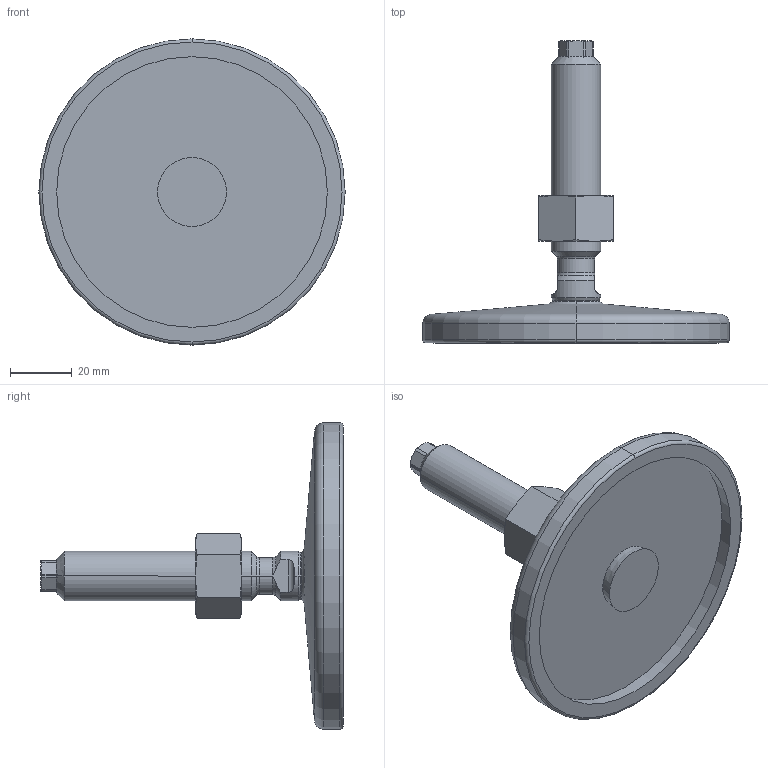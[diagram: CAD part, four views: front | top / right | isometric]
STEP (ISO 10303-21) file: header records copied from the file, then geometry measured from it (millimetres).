
FILE_DESCRIPTION (( 'STEP AP214' ), '1' );
FILE_NAME ('21-100-M16-75-D0-VK.step', '2020-10-02T17:36:52', ( '' ), ( '' ), 'SwSTEP 2.0', 'SolidWorks 2019', '' );
FILE_SCHEMA (( 'AUTOMOTIVE_DESIGN' ));
Length unit declared in the file: millimetre
Products named in the file (4): WB21_Fußteller 21^WB21_V_D0-100-R10-B7 (M8 M10_M12_M16); 21-100-M16-75-D0-VK; WB21_Spindel_V^WB21_V_M16-75; WB4032^WB21_V_M16
Assembly tree (3 placements, depth 2):
  21-100-M16-75-D0-VK
    WB21_Fußteller 21^WB21_V_D0-100-R10-B7 (M8 M10_M12_M16)
    WB21_Spindel_V^WB21_V_M16-75
    WB4032^WB21_V_M16
Bounding box: 99 x 97.64 x 99 mm (x, y, z)
Volume: 74446.4 mm3; surface area: 26819 mm2
Topology: 3 solids, 3 shells, 101 faces, 225 edges, 133 vertices
Faces by surface type: cone 33, plane 29, cylinder 25, torus 10, sphere 4
Entity records: 3168 total; most frequent: CARTESIAN_POINT 741, DIRECTION 492, ORIENTED_EDGE 450, EDGE_CURVE 225, AXIS2_PLACEMENT_3D 212, VERTEX_POINT 133, EDGE_LOOP 106, CIRCLE 105
